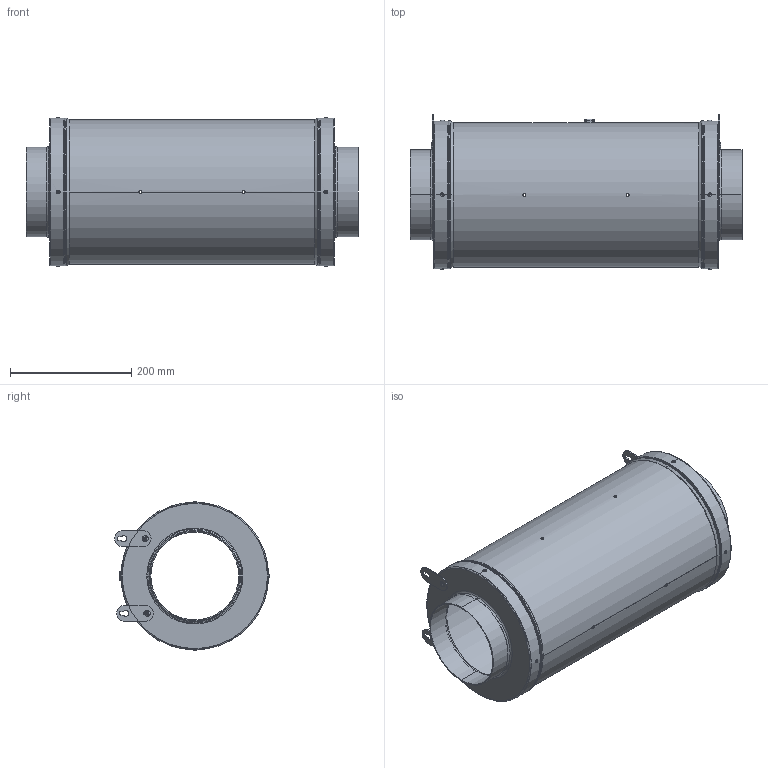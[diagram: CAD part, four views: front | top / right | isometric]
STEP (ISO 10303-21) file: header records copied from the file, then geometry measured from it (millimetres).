
FILE_DESCRIPTION((''),'2;1');
FILE_NAME('1500001_ASM','2021-01-05T10:40:42',('Administrator'),(''),'CREO PARAMETRIC BY PTC INC, 2019010','CREO PARAMETRIC BY PTC INC, 2019010','');
FILE_SCHEMA(('CONFIG_CONTROL_DESIGN'));
Length unit declared in the file: millimetre
Products named in the file (23): ADMI08144BDCCMA7_2; ADMI08144BDCCMA7_6; ADMI08144BDCCMA7_7; ADMI08144BDCCMA7_31; ADMI08144BDCCMA7_32; ADMI08144BDCCMA7_33; ADMI08144BDCCMA7_34; ADMI08144BDCCMA7_35; ADMI08144BDCCMA7_36; ADMI08144BDCCMA7_37; ADMI08144BDCCMA7_38; ADMI08144BDCCMA7_ASM; PRT0002; PRT0003; PRT0004; PRT0005; PRT0006; PRT0007; PRT0008; PRT0009; PRT0010; PRT0011; 1500001_ASM
Assembly tree (22 placements, depth 3):
  1500001_ASM
    ADMI08144BDCCMA7_ASM
      ADMI08144BDCCMA7_2
      ADMI08144BDCCMA7_6
      ADMI08144BDCCMA7_7
      ADMI08144BDCCMA7_31
      ADMI08144BDCCMA7_32
      ADMI08144BDCCMA7_33
      ADMI08144BDCCMA7_34
      ADMI08144BDCCMA7_35
      ADMI08144BDCCMA7_36
      ADMI08144BDCCMA7_37
      ADMI08144BDCCMA7_38
    PRT0002
    PRT0003
    PRT0004
    PRT0005
    PRT0006
    PRT0007
    PRT0008
    PRT0009
    PRT0010
    PRT0011
Bounding box: 546.6 x 254.82 x 245.6 mm (x, y, z)
Volume: 575168.8 mm3; surface area: 963360.4 mm2
Topology: 21 solids, 21 shells, 467 faces, 1256 edges, 816 vertices
Faces by surface type: cylinder 166, plane 141, torus 108, cone 24, bspline 24, sphere 4
Entity records: 16926 total; most frequent: CARTESIAN_POINT 4385, DIRECTION 2740, ORIENTED_EDGE 2504, EDGE_CURVE 1252, AXIS2_PLACEMENT_3D 1157, VERTEX_POINT 816, CIRCLE 658, EDGE_LOOP 538
